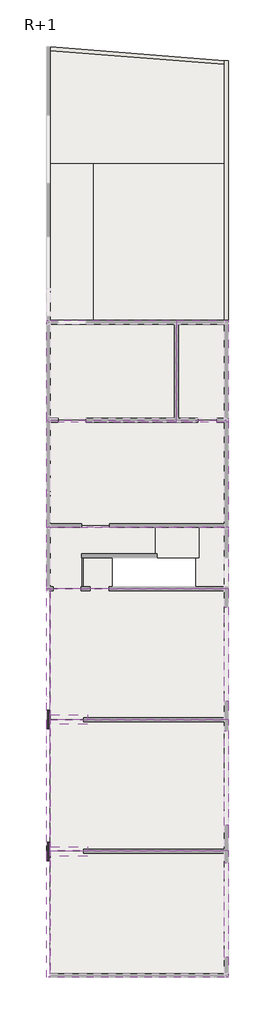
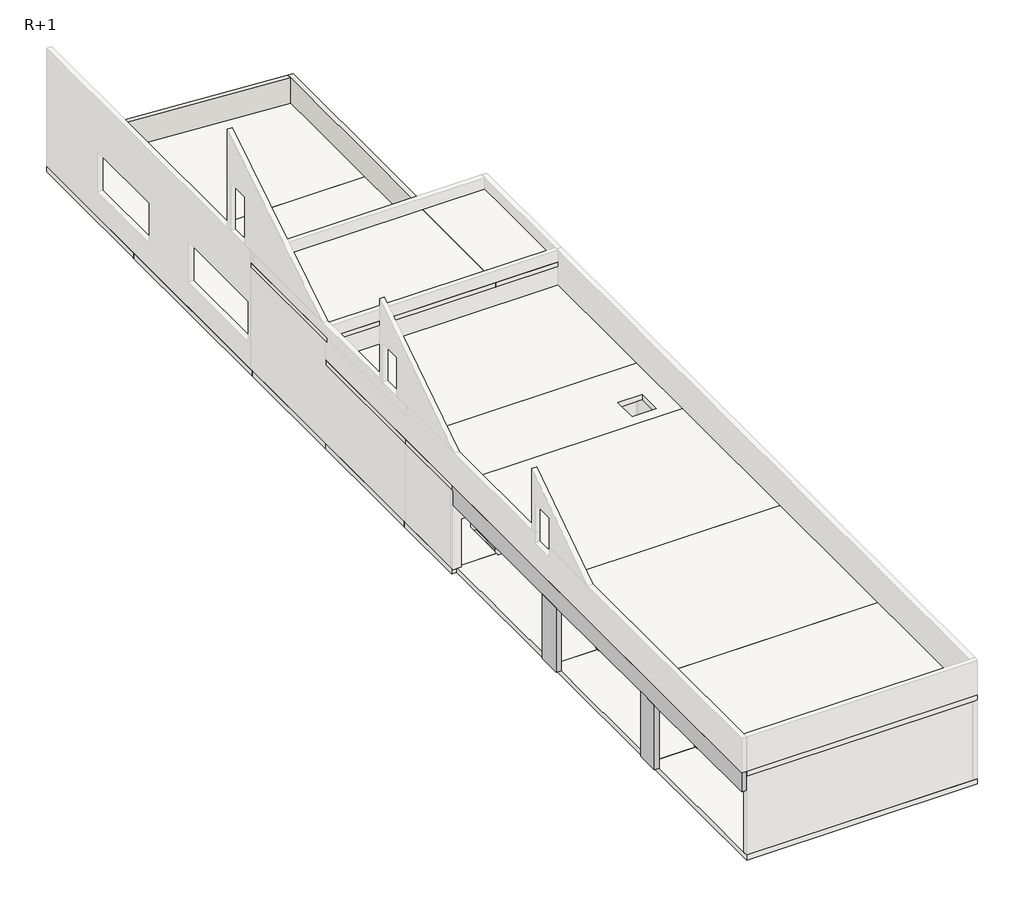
# One storey, part 2 of 2: 20 slabs, 10 beams, 2 columns, 2 walls.
"""IFC4 building model written with IfcOpenShell, lengths in millimetres."""

from ifc_helpers import new_model, si_unit, frame, origin, place, context, project, spatial, polyline, outline, extrude, faceted_brep, transform, mapped, element, save
from components import poutre_plate_20x23h_fd006301, poutre_plate_20x23h_88e0bb5e, poutre_plate_20x23h_90cabc80, poutre_plate_30x23h_b93e17b9, poutre_plate_50x22h_13fb874a

model = new_model("IFC4")

# Units and contexts
model_context = context("Model", 3, world=origin())
ifc_project = project(units=[si_unit("LENGTHUNIT", "METRE", prefix="MILLI")], contexts=[model_context])

# Site, building, storey
site = spatial("IfcSite", under=ifc_project)
building = spatial("IfcBuilding", under=site)
storey = spatial("IfcBuildingStorey", under=building, Name="R+1", Elevation=3430.0)

# Beams
placement = place(None, origin())
element("IfcBeam", 1, ObjectType="Poutre : 20x60h", at=placement, inside=storey, context=model_context, shape_type="SweptSolid", body=[
    extrude(outline(polyline([(39789.0482781, 45965.3266361), (39989.0482781, 45965.3266361), (39989.0482781, 40966.3266361), (39789.0482781, 40966.3266361), (39789.0482781, 45965.3266361)])), frame((0.0, 0.0, 6230.0), z_axis=(0.0, 0.0, 1.0), x_axis=(1.0, 0.0, 0.0)), (0.0, 0.0, 1.0), 600.0),
])
element("IfcBeam", 2, ObjectType="Poutre : 20x60h", at=placement, inside=storey, context=model_context, shape_type="SweptSolid", body=[
    extrude(outline(polyline([(39789.0482781, 39416.7655301), (39989.0482781, 39416.7655301), (39989.0482781, 34416.7655301), (39789.0482781, 34416.7655301), (39789.0482781, 39416.7655301)])), frame((0.0, 0.0, 6230.0), z_axis=(0.0, 0.0, 1.0), x_axis=(1.0, 0.0, 0.0)), (0.0, 0.0, 1.0), 600.0),
])
element("IfcBeam", 3, ObjectType="Poutre : 20x60h", at=placement, inside=storey, context=model_context, shape_type="SweptSolid", body=[
    extrude(outline(polyline([(39789.0482781, 32416.8875139), (39989.0482781, 32416.8875139), (39989.0482781, 27416.8875139), (39789.0482781, 27416.8875139), (39789.0482781, 32416.8875139)])), frame((0.0, 0.0, 6230.0), z_axis=(0.0, 0.0, 1.0), x_axis=(1.0, 0.0, 0.0)), (0.0, 0.0, 1.0), 600.0),
])
element("IfcBeam", 4, ObjectType="Poutre : 20x82h", at=placement, inside=storey, context=model_context, shape_type="Brep", body=[
    faceted_brep([(30339.0482779, 26349.8020807, 6230.0), (30339.0482779, 26349.8020807, 7050.0), (30339.0482779, 46929.8020813, 7050.0), (30339.0482779, 46929.8020813, 6830.0), (30339.0482779, 46829.8020813, 6830.0), (30339.0482779, 46829.8020813, 6230.0), (30339.0482779, 40492.3020813, 6230.0), (30339.0482779, 39507.3020813, 6230.0), (30339.0482779, 33522.3020807, 6230.0), (30339.0482779, 32537.3020807, 6230.0), (30539.0482779, 26349.8020807, 6230.0), (30539.0482779, 46829.8020813, 6230.0), (30539.0482779, 40492.3020813, 6230.0), (30539.0482779, 39507.3020813, 6230.0), (30539.0482779, 33522.3020807, 6230.0), (30539.0482779, 32537.3020807, 6230.0), (30539.0482779, 26349.8020807, 7050.0), (30539.0482779, 26349.8020807, 6830.0), (30539.0482779, 46829.8020813, 6830.0), (30539.0482779, 46929.8020813, 6830.0), (30539.0482779, 46929.8020813, 7050.0), (30539.0482779, 39999.8020813, 7050.0), (30539.0482779, 33069.8020807, 7050.0)], [[[0, 1, 2, 3, 4, 5, 6, 7, 8, 9]], [[10, 0, 9, 8, 7, 6, 5, 11, 12, 13, 14, 15]], [[16, 17, 10, 15, 14, 13, 12, 11, 18, 19, 20, 21, 22]], [[1, 16, 22, 21, 20, 2]], [[1, 0, 10, 17, 16]], [[5, 4, 18, 11]], [[3, 2, 20, 19]], [[18, 4, 3, 19]]]),
])
poutre_plate_20x23h_shape = poutre_plate_20x23h_fd006301(model_context)
element("IfcBeam", 5, ObjectType="Poutre Plate : 20x23h", at=placement, inside=storey, context=model_context, shape_type="MappedRepresentation", body=[
    mapped(poutre_plate_20x23h_shape, transform((32299.048278, 47804.8020814, 3315.0), x_axis=(0.0, 1.0, 0.0), y_axis=(-1.0, 0.0, 0.0), z_axis=(0.0, 0.0, 1.0))),
])
poutre_plate_20x23h_2_shape = poutre_plate_20x23h_88e0bb5e(model_context)
element("IfcBeam", 6, ObjectType="Poutre Plate : 20x23h", at=placement, inside=storey, context=model_context, shape_type="MappedRepresentation", body=[
    mapped(poutre_plate_20x23h_2_shape, transform((31319.048278, 50279.8020815, 3315.0), x_axis=(-1.0, 0.0, 0.0), y_axis=(0.0, -1.0, 0.0), z_axis=(0.0, 0.0, 1.0))),
])
poutre_plate_20x23h_3_shape = poutre_plate_20x23h_90cabc80(model_context)
element("IfcBeam", 7, ObjectType="Poutre Plate : 20x23h", at=placement, inside=storey, context=model_context, shape_type="MappedRepresentation", body=[
    mapped(poutre_plate_20x23h_3_shape, transform((36089.0482771, 49479.8020815, 3315.0), x_axis=(0.0, 1.0, 0.0), y_axis=(-1.0, 0.0, 0.0), z_axis=(0.0, 0.0, 1.0))),
])
poutre_plate_30x23h_shape = poutre_plate_30x23h_b93e17b9(model_context)
element("IfcBeam", 8, ObjectType="Poutre Plate : 30x23h", at=placement, inside=storey, context=model_context, shape_type="MappedRepresentation", body=[
    mapped(poutre_plate_30x23h_shape, transform((38429.048278, 48604.8020814, 3315.0), x_axis=(0.0, 1.0, 0.0), y_axis=(-1.0, 0.0, 0.0), z_axis=(0.0, 0.0, 1.0))),
])
poutre_plate_50x22h_shape = poutre_plate_50x22h_13fb874a(model_context)
element("IfcBeam", 9, ObjectType="Poutre Plate : 50x22h", at=placement, inside=storey, context=model_context, shape_type="MappedRepresentation", body=[
    mapped(poutre_plate_50x22h_shape, transform((31519.198278, 39999.8020813, 6750.0), x_axis=(1.0, 0.0, 0.0), y_axis=(0.0, 1.0, 0.0), z_axis=(0.0, 0.0, 1.0))),
])
element("IfcBeam", 10, ObjectType="Poutre Plate : 50x22h", at=placement, inside=storey, context=model_context, shape_type="MappedRepresentation", body=[
    mapped(poutre_plate_50x22h_shape, transform((31519.198278, 33029.8020807, 6750.0), x_axis=(1.0, 0.0, 0.0), y_axis=(0.0, 1.0, 0.0), z_axis=(0.0, 0.0, 1.0))),
])

# Columns
element("IfcColumn", 11, ObjectType="Poteau rectangulaire : 20 x 98.5cm", at=placement, inside=storey, context=model_context, shape_type="SweptSolid", body=[
    extrude(outline(polyline([(30539.0482779, 40492.3020813), (30539.0482779, 39507.3020813), (30339.0482779, 39507.3020813), (30339.0482779, 40492.3020813), (30539.0482779, 40492.3020813)])), frame((0.0, 0.0, 3430.0), z_axis=(0.0, 0.0, 1.0), x_axis=(1.0, 0.0, 0.0)), (0.0, 0.0, 1.0), 2800.0),
])
element("IfcColumn", 12, ObjectType="Poteau rectangulaire : 20 x 98.5cm", at=placement, inside=storey, context=model_context, shape_type="SweptSolid", body=[
    extrude(outline(polyline([(30539.0482779, 33522.3020807), (30539.0482779, 32537.3020807), (30339.0482779, 32537.3020807), (30339.0482779, 33522.3020807), (30539.0482779, 33522.3020807)])), frame((0.0, 0.0, 3430.0), z_axis=(0.0, 0.0, 1.0), x_axis=(1.0, 0.0, 0.0)), (0.0, 0.0, 1.0), 2800.0),
])

# Slabs
element("IfcSlab", 13, ObjectType="Plancher dalle pleine - Ep 20 cm", at=placement, inside=storey, context=model_context, shape_type="Brep", body=[
    faceted_brep([(37239.0482776, 61149.8020814, 7850.0), (37239.0482776, 55749.8020814, 7850.0), (30539.0482779, 55749.8020814, 7850.0), (30339.0482779, 55749.8020814, 7850.0), (30339.0482779, 55849.8020814, 7850.0), (30339.0482779, 61149.8020814, 7850.0), (30539.0482779, 61149.8020814, 7850.0), (37239.0482776, 61149.8020814, 8050.0), (30339.0482779, 61149.8020814, 8050.0), (30339.0482779, 60949.8020814, 8050.0), (30339.0482779, 55749.8020814, 8050.0), (30539.0482779, 55749.8020814, 8050.0), (37239.0482776, 55749.8020814, 8050.0)], [[[0, 1, 2, 3, 4, 5, 6]], [[7, 8, 9, 10, 11, 12]], [[1, 0, 7, 12]], [[3, 2, 1, 12, 11, 10]], [[5, 4, 3, 10, 9, 8]], [[0, 6, 5, 8, 7]]]),
])
element("IfcSlab", 14, ObjectType="Plancher dalle pleine - Ep 20 cm", at=placement, inside=storey, context=model_context, shape_type="Brep", body=[
    faceted_brep([(39989.0482781, 61149.8020814, 7850.0), (39989.0482781, 60949.8020814, 7850.0), (39989.0482781, 55949.8020814, 7850.0), (39989.0482781, 55749.8020814, 7850.0), (39789.0482781, 55749.8020814, 7850.0), (37239.0482776, 55749.8020814, 7850.0), (37239.0482776, 61149.8020814, 7850.0), (39989.0482781, 61149.8020814, 8050.0), (39789.0482781, 61149.8020814, 8050.0), (37239.0482776, 61149.8020814, 8050.0), (37239.0482776, 55749.8020814, 8050.0), (39789.0482781, 55749.8020814, 8050.0), (39989.0482781, 55749.8020814, 8050.0), (39989.0482781, 55849.8020814, 8050.0)], [[[0, 1, 2, 3, 4, 5, 6]], [[7, 8, 9, 10, 11, 12, 13]], [[3, 2, 1, 0, 7, 13, 12]], [[5, 4, 3, 12, 11, 10]], [[6, 5, 10, 9]], [[0, 6, 9, 8, 7]]]),
])
element("IfcSlab", 15, ObjectType="Plancher dalle pleine - Ep 22 cm", at=placement, inside=storey, context=model_context, shape_type="Brep", body=[
    faceted_brep([(30539.0482779, 39999.8020813, 6830.0), (39989.0482781, 39999.8020813, 6830.0), (39989.0482781, 39416.7655301, 6830.0), (39989.0482781, 34416.7655301, 6830.0), (39989.0482781, 33069.8020807, 6830.0), (30539.0482779, 33069.8020807, 6830.0), (39989.0482781, 39999.8020813, 7050.0), (30539.0482779, 39999.8020813, 7050.0), (30539.0482779, 33069.8020807, 7050.0), (39989.0482781, 33069.8020807, 7050.0)], [[[0, 1, 2, 3, 4, 5]], [[6, 7, 8, 9]], [[1, 6, 9, 4, 3, 2]], [[7, 0, 5, 8]], [[1, 0, 7, 6]], [[5, 4, 9, 8]]]),
])
element("IfcSlab", 16, ObjectType="Plancher dalle pleine - Ep 22 cm", at=placement, inside=storey, context=model_context, shape_type="Brep", body=[
    faceted_brep([(39989.0482781, 33069.8020807, 6830.0), (39989.0482781, 32416.8875139, 6830.0), (39989.0482781, 27416.8875139, 6830.0), (39989.0482781, 26349.8020807, 6830.0), (39789.0482781, 26349.8020807, 6830.0), (30539.0482779, 26349.8020807, 6830.0), (30539.0482779, 26549.8020807, 6830.0), (30539.0482779, 33069.8020807, 6830.0), (39989.0482781, 33069.8020807, 7050.0), (30539.0482779, 33069.8020807, 7050.0), (30539.0482779, 26549.8020807, 7050.0), (30539.0482779, 26349.8020807, 7050.0), (39989.0482781, 26349.8020807, 7050.0), (39989.0482781, 26549.8020807, 7050.0)], [[[0, 1, 2, 3, 4, 5, 6, 7]], [[8, 9, 10, 11, 12, 13]], [[3, 2, 1, 0, 8, 13, 12]], [[5, 4, 3, 12, 11]], [[7, 6, 5, 11, 10, 9]], [[0, 7, 9, 8]]]),
])
element("IfcSlab", 17, ObjectType="Plancher dalle pleine - Ep 22 cm", at=placement, inside=storey, context=model_context, shape_type="Brep", body=[
    faceted_brep([(39989.0482781, 55849.8020814, 6830.0), (39989.0482781, 50179.8020815, 6830.0), (39789.0482781, 50179.8020815, 6830.0), (30539.0482779, 50179.8020815, 6830.0), (30339.0482779, 50179.8020815, 6830.0), (30339.0482779, 55849.8020814, 6830.0), (30539.0482779, 55849.8020814, 6830.0), (39789.0482781, 55849.8020814, 6830.0), (39989.0482781, 55849.8020814, 7050.0), (39789.0482781, 55849.8020814, 7050.0), (30539.0482779, 55849.8020814, 7050.0), (30339.0482779, 55849.8020814, 7050.0), (30339.0482779, 50179.8020815, 7050.0), (39989.0482781, 50179.8020815, 7050.0)], [[[0, 1, 2, 3, 4, 5, 6, 7]], [[8, 9, 10, 11, 12, 13]], [[1, 0, 8, 13]], [[4, 3, 2, 1, 13, 12]], [[5, 4, 12, 11]], [[0, 7, 6, 5, 11, 10, 9, 8]]]),
])
element("IfcSlab", 18, ObjectType="Plancher dalle pleine - Ep 22 cm", at=placement, inside=storey, context=model_context, shape_type="Brep", body=[
    faceted_brep([(39989.0482781, 50179.8020815, 6830.0), (39989.0482781, 50079.8020815, 6830.0), (39989.0482781, 46929.8020813, 6830.0), (30539.0482779, 46929.8020813, 6830.0), (30339.0482779, 46929.8020813, 6830.0), (30339.0482779, 47029.8020813, 6830.0), (30339.0482779, 50179.8020815, 6830.0), (30539.0482779, 50179.8020815, 6830.0), (38989.0482781, 48379.8020815, 6830.0), (37989.0482781, 48379.8020815, 6830.0), (37989.0482781, 47379.8020815, 6830.0), (38989.0482781, 47379.8020815, 6830.0), (39989.0482781, 50179.8020815, 7050.0), (30339.0482779, 50179.8020815, 7050.0), (30339.0482779, 46929.8020813, 7050.0), (30539.0482779, 46929.8020813, 7050.0), (39989.0482781, 46929.8020813, 7050.0), (37989.0482781, 48379.8020815, 7050.0), (38989.0482781, 48379.8020815, 7050.0), (38989.0482781, 47379.8020815, 7050.0), (37989.0482781, 47379.8020815, 7050.0)], [[[0, 1, 2, 3, 4, 5, 6, 7], [8, 9, 10, 11]], [[12, 13, 14, 15, 16], [17, 18, 19, 20]], [[2, 1, 0, 12, 16]], [[4, 3, 2, 16, 15, 14]], [[6, 5, 4, 14, 13]], [[0, 7, 6, 13, 12]], [[8, 18, 17, 9]], [[9, 17, 20, 10]], [[10, 20, 19, 11]], [[18, 8, 11, 19]]]),
])
element("IfcSlab", 19, ObjectType="Plancher dalle pleine - Ep 22 cm", at=placement, inside=storey, context=model_context, shape_type="Brep", body=[
    faceted_brep([(39989.0482781, 46929.8020813, 6830.0), (39989.0482781, 45965.3266361, 6830.0), (39989.0482781, 40966.3266361, 6830.0), (39989.0482781, 39999.8020813, 6830.0), (30539.0482779, 39999.8020813, 6830.0), (30539.0482779, 46829.8020813, 6830.0), (30539.0482779, 46929.8020813, 6830.0), (39989.0482781, 46929.8020813, 7050.0), (30539.0482779, 46929.8020813, 7050.0), (30539.0482779, 39999.8020813, 7050.0), (39989.0482781, 39999.8020813, 7050.0)], [[[0, 1, 2, 3, 4, 5, 6]], [[7, 8, 9, 10]], [[3, 2, 1, 0, 7, 10]], [[4, 3, 10, 9]], [[6, 5, 4, 9, 8]], [[0, 6, 8, 7]]]),
])
element("IfcSlab", 20, ObjectType="Plancher dalle pleine - Ep 23 cm", at=placement, inside=storey, context=model_context, shape_type="Brep", body=[
    faceted_brep([(30339.0482779, 69449.8020814, 3200.0), (30339.0482779, 69550.0032938, 3200.0), (30339.0482779, 73750.0032938, 3200.0), (30339.0482779, 75645.8255641, 3200.0), (30539.0482779, 75630.0113589, 3200.0), (34770.7691545, 75295.4048471, 3200.0), (38459.2564911, 75003.7523687, 3200.0), (39789.0482781, 74898.6043676, 3200.0), (39989.0482781, 74882.7901624, 3200.0), (39989.0482781, 74549.5520814, 3200.0), (39989.0482781, 70574.5520814, 3200.0), (39989.0482781, 69449.8020814, 3200.0), (32799.0482767, 69449.8020814, 3200.0), (30339.0482779, 69449.8020814, 3430.0), (32799.0482767, 69449.8020814, 3430.0), (39989.0482781, 69449.8020814, 3430.0), (39989.0482781, 74882.7901624, 3430.0), (39789.0482781, 74898.6043676, 3430.0), (30539.0482779, 75630.0113589, 3430.0), (30339.0482779, 75645.8255641, 3430.0)], [[[0, 1, 2, 3, 4, 5, 6, 7, 8, 9, 10, 11, 12]], [[13, 14, 15, 16, 17, 18, 19]], [[3, 2, 1, 0, 13, 19]], [[8, 7, 6, 5, 4, 3, 19, 18, 17, 16]], [[11, 10, 9, 8, 16, 15]], [[0, 12, 11, 15, 14, 13]]]),
])
element("IfcSlab", 21, ObjectType="Plancher dalle pleine - Ep 23 cm", at=placement, inside=storey, context=model_context, shape_type="Brep", body=[
    faceted_brep([(37139.0482776, 55849.8020814, 3200.0), (30339.0482779, 55849.8020814, 3200.0), (30339.0482779, 60949.8020814, 3200.0), (30339.0482779, 61049.8020814, 3200.0), (32799.0482767, 61049.8020814, 3200.0), (37139.0482776, 61049.8020814, 3200.0), (37239.0482776, 61049.8020814, 3200.0), (37239.0482776, 60949.8020814, 3200.0), (37139.0482776, 60949.8020814, 3200.0), (37139.0482776, 55949.8020814, 3200.0), (37239.0482776, 55949.8020814, 3200.0), (37239.0482776, 55849.8020814, 3200.0), (37139.0482776, 55849.8020814, 3430.0), (37239.0482776, 55849.8020814, 3430.0), (37239.0482776, 55949.8020814, 3430.0), (37139.0482776, 55949.8020814, 3430.0), (37139.0482776, 60949.8020814, 3430.0), (37239.0482776, 60949.8020814, 3430.0), (37239.0482776, 61049.8020814, 3430.0), (37139.0482776, 61049.8020814, 3430.0), (32799.0482767, 61049.8020814, 3430.0), (30339.0482779, 61049.8020814, 3430.0), (30339.0482779, 55849.8020814, 3430.0)], [[[0, 1, 2, 3, 4, 5, 6, 7, 8, 9, 10, 11]], [[12, 13, 14, 15, 16, 17, 18, 19, 20, 21, 22]], [[1, 0, 12, 22]], [[3, 2, 1, 22, 21]], [[5, 4, 3, 21, 20, 19]], [[9, 8, 16, 15]], [[6, 5, 19, 18]], [[7, 6, 18, 17]], [[8, 7, 17, 16]], [[10, 9, 15, 14]], [[11, 10, 14, 13]], [[0, 11, 13, 12]]]),
])
element("IfcSlab", 22, ObjectType="Plancher dalle pleine - Ep 23 cm", at=placement, inside=storey, context=model_context, shape_type="Brep", body=[
    faceted_brep([(30339.0482779, 69449.8020814, 3200.0), (32799.0482767, 69449.8020814, 3200.0), (32799.0482767, 61049.8020814, 3200.0), (30339.0482779, 61049.8020814, 3200.0), (30339.0482779, 69449.8020814, 3430.0), (30339.0482779, 61149.8020814, 3430.0), (30339.0482779, 61049.8020814, 3430.0), (32799.0482767, 61049.8020814, 3430.0), (32799.0482767, 69449.8020814, 3430.0)], [[[0, 1, 2, 3]], [[4, 5, 6, 7, 8]], [[1, 0, 4, 8]], [[2, 1, 8, 7]], [[3, 2, 7, 6]], [[0, 3, 6, 5, 4]]]),
])
element("IfcSlab", 23, ObjectType="Plancher dalle pleine - Ep 23 cm", at=placement, inside=storey, context=model_context, shape_type="Brep", body=[
    faceted_brep([(39989.0482781, 69449.8020814, 3200.0), (39989.0482781, 68524.8020814, 3200.0), (39989.0482781, 61574.8020814, 3200.0), (39989.0482781, 61049.8020814, 3200.0), (37239.0482776, 61049.8020814, 3200.0), (32799.0482767, 61049.8020814, 3200.0), (32799.0482767, 69449.8020814, 3200.0), (39989.0482781, 61049.8020814, 3430.0), (39989.0482781, 61149.8020814, 3430.0), (39989.0482781, 69449.8020814, 3430.0), (32799.0482767, 69449.8020814, 3430.0), (32799.0482767, 61049.8020814, 3430.0), (37239.0482776, 61049.8020814, 3430.0)], [[[0, 1, 2, 3, 4, 5, 6]], [[7, 8, 9, 10, 11, 12]], [[3, 2, 1, 0, 9, 8, 7]], [[3, 7, 12, 11, 5, 4]], [[9, 0, 6, 10]], [[6, 5, 11, 10]]]),
])
element("IfcSlab", 24, ObjectType="Plancher dalle pleine - Ep 23 cm", at=placement, inside=storey, context=model_context, shape_type="Brep", body=[
    faceted_brep([(39989.0482781, 46929.8020813, 3200.0), (39989.0482781, 39999.8020813, 3200.0), (30539.0482779, 39999.8020813, 3200.0), (30539.0482779, 40099.8020813, 3200.0), (30539.0482779, 46829.8020813, 3200.0), (30539.0482779, 46929.8020813, 3200.0), (32299.048278, 46929.8020813, 3200.0), (32369.048278, 46929.8020813, 3200.0), (33809.048278, 46929.8020813, 3200.0), (33809.048278, 47029.8020813, 3200.0), (38279.048278, 47029.8020813, 3200.0), (38279.048278, 46929.8020813, 3200.0), (39989.0482781, 39999.8020813, 3430.0), (39989.0482781, 46929.8020813, 3430.0), (38279.048278, 46929.8020813, 3430.0), (38279.048278, 47029.8020813, 3430.0), (33809.048278, 47029.8020813, 3430.0), (33809.048278, 46929.8020813, 3430.0), (32369.048278, 46929.8020813, 3430.0), (32299.048278, 46929.8020813, 3430.0), (30539.0482779, 46929.8020813, 3430.0), (30539.0482779, 39999.8020813, 3430.0)], [[[0, 1, 2, 3, 4, 5, 6, 7, 8, 9, 10, 11]], [[12, 13, 14, 15, 16, 17, 18, 19, 20, 21]], [[1, 0, 13, 12]], [[2, 1, 12, 21]], [[5, 4, 3, 2, 21, 20]], [[5, 20, 19, 18, 17, 8, 7, 6]], [[9, 8, 17, 16]], [[10, 9, 16, 15]], [[11, 10, 15, 14]], [[0, 11, 14, 13]]]),
])
element("IfcSlab", 25, ObjectType="Plancher dalle pleine - Ep 23 cm", at=placement, inside=storey, context=model_context, shape_type="Brep", body=[
    faceted_brep([(32199.048278, 48579.8020815, 3200.0), (32199.048278, 47029.8020813, 3200.0), (32299.048278, 47029.8020813, 3200.0), (32299.048278, 46929.8020813, 3200.0), (32199.048278, 46929.8020813, 3200.0), (30339.0482779, 46929.8020813, 3200.0), (30339.0482779, 50279.8020815, 3200.0), (36089.0482771, 50279.8020815, 3200.0), (36089.0482771, 50279.3020815, 3200.0), (36089.0482771, 48579.8020815, 3200.0), (33809.048278, 48579.8020815, 3200.0), (32299.048278, 48579.8020815, 3200.0), (32199.048278, 48579.8020815, 3430.0), (32299.048278, 48579.8020815, 3430.0), (33809.048278, 48579.8020815, 3430.0), (36089.0482771, 48579.8020815, 3430.0), (36089.0482771, 50279.3020815, 3430.0), (36089.0482771, 50279.8020815, 3430.0), (30339.0482779, 50279.8020815, 3430.0), (30339.0482779, 50179.8020815, 3430.0), (30339.0482779, 47029.8020813, 3430.0), (30339.0482779, 46929.8020813, 3430.0), (32199.048278, 46929.8020813, 3430.0), (32299.048278, 46929.8020813, 3430.0), (32299.048278, 47029.8020813, 3430.0), (32199.048278, 47029.8020813, 3430.0)], [[[0, 1, 2, 3, 4, 5, 6, 7, 8, 9, 10, 11]], [[12, 13, 14, 15, 16, 17, 18, 19, 20, 21, 22, 23, 24, 25]], [[1, 0, 12, 25]], [[5, 4, 22, 21]], [[6, 5, 21, 20, 19, 18]], [[7, 6, 18, 17]], [[9, 8, 7, 17, 16, 15]], [[0, 11, 10, 9, 15, 14, 13, 12]], [[2, 1, 25, 24]], [[3, 2, 24, 23]], [[4, 3, 23, 22]]]),
])
element("IfcSlab", 26, ObjectType="Plancher dalle pleine - Ep 23 cm", at=placement, inside=storey, context=model_context, shape_type="Brep", body=[
    faceted_brep([(32299.048278, 48579.8020815, 3200.0), (33809.048278, 48579.8020815, 3200.0), (33809.048278, 47029.8020813, 3200.0), (33809.048278, 46929.8020813, 3200.0), (32369.048278, 46929.8020813, 3200.0), (32299.048278, 46929.8020813, 3200.0), (32299.048278, 47029.8020813, 3200.0), (33809.048278, 48579.8020815, 3430.0), (32299.048278, 48579.8020815, 3430.0), (32299.048278, 47029.8020813, 3430.0), (32299.048278, 46929.8020813, 3430.0), (32369.048278, 46929.8020813, 3430.0), (33809.048278, 46929.8020813, 3430.0), (33809.048278, 47029.8020813, 3430.0)], [[[0, 1, 2, 3, 4, 5, 6]], [[7, 8, 9, 10, 11, 12, 13]], [[1, 0, 8, 7]], [[3, 2, 1, 7, 13, 12]], [[4, 3, 12, 11]], [[5, 4, 11, 10]], [[5, 10, 9, 8, 0, 6]]]),
])
element("IfcSlab", 27, ObjectType="Plancher dalle pleine - Ep 23 cm", at=placement, inside=storey, context=model_context, shape_type="Brep", body=[
    faceted_brep([(30339.0482779, 55849.8020814, 3200.0), (37239.0482776, 55849.8020814, 3200.0), (39989.0482781, 55849.8020814, 3200.0), (39989.0482781, 50279.3020815, 3200.0), (38429.048278, 50279.3020815, 3200.0), (36089.0482771, 50279.3020815, 3200.0), (36089.0482771, 50279.8020815, 3200.0), (30339.0482779, 50279.8020815, 3200.0), (30339.0482779, 50319.8020815, 3200.0), (30339.0482779, 51902.3020813, 3200.0), (30339.0482779, 52102.3020813, 3200.0), (39989.0482781, 55849.8020814, 3430.0), (37239.0482776, 55849.8020814, 3430.0), (30339.0482779, 55849.8020814, 3430.0), (30339.0482779, 50279.8020815, 3430.0), (36089.0482771, 50279.8020815, 3430.0), (36089.0482771, 50279.3020815, 3430.0), (38429.048278, 50279.3020815, 3430.0), (39989.0482781, 50279.3020815, 3430.0)], [[[0, 1, 2, 3, 4, 5, 6, 7, 8, 9, 10]], [[11, 12, 13, 14, 15, 16, 17, 18]], [[13, 0, 10, 9, 8, 7, 14]], [[2, 1, 0, 13, 12, 11]], [[3, 2, 11, 18]], [[3, 18, 17, 16, 5, 4]], [[6, 15, 14, 7]], [[15, 6, 5, 16]]]),
])
element("IfcSlab", 28, ObjectType="Plancher dalle pleine - Ep 23 cm", at=placement, inside=storey, context=model_context, shape_type="Brep", body=[
    faceted_brep([(36089.0482771, 50279.3020815, 3200.0), (38429.048278, 50279.3020815, 3200.0), (38429.048278, 48579.8020815, 3200.0), (38279.048278, 48579.8020815, 3200.0), (36089.0482771, 48579.8020815, 3200.0), (38429.048278, 50279.3020815, 3430.0), (36089.0482771, 50279.3020815, 3430.0), (36089.0482771, 48579.8020815, 3430.0), (38279.048278, 48579.8020815, 3430.0), (38429.048278, 48579.8020815, 3430.0)], [[[0, 1, 2, 3, 4]], [[5, 6, 7, 8, 9]], [[2, 9, 8, 7, 4, 3]], [[9, 2, 1, 5]], [[1, 0, 6, 5]], [[4, 7, 6, 0]]]),
])
element("IfcSlab", 29, ObjectType="Plancher dalle pleine - Ep 23 cm", at=placement, inside=storey, context=model_context, shape_type="Brep", body=[
    faceted_brep([(39989.0482781, 39999.8020813, 3200.0), (39989.0482781, 37391.301977, 3200.0), (39989.0482781, 33440.301977, 3200.0), (39989.0482781, 33029.8020807, 3200.0), (30539.0482779, 33029.8020807, 3200.0), (30539.0482779, 33129.8020807, 3200.0), (30539.0482779, 39899.8020813, 3200.0), (30539.0482779, 39999.8020813, 3200.0), (39989.0482781, 39999.8020813, 3430.0), (30539.0482779, 39999.8020813, 3430.0), (30539.0482779, 33029.8020807, 3430.0), (39989.0482781, 33029.8020807, 3430.0)], [[[0, 1, 2, 3, 4, 5, 6, 7]], [[8, 9, 10, 11]], [[3, 2, 1, 0, 8, 11]], [[4, 3, 11, 10]], [[7, 6, 5, 4, 10, 9]], [[0, 7, 9, 8]]]),
])
element("IfcSlab", 30, ObjectType="Plancher dalle pleine - Ep 23 cm", at=placement, inside=storey, context=model_context, shape_type="Brep", body=[
    faceted_brep([(39989.0482781, 33029.8020807, 3200.0), (39989.0482781, 32391.8519337, 3200.0), (39989.0482781, 27412.8519337, 3200.0), (39989.0482781, 26349.8020807, 3200.0), (39789.0482781, 26349.8020807, 3200.0), (30539.0482779, 26349.8020807, 3200.0), (30539.0482779, 33029.8020807, 3200.0), (39989.0482781, 33029.8020807, 3430.0), (30539.0482779, 33029.8020807, 3430.0), (30539.0482779, 26549.8020807, 3430.0), (30539.0482779, 26349.8020807, 3430.0), (39789.0482781, 26349.8020807, 3430.0), (39989.0482781, 26349.8020807, 3430.0)], [[[0, 1, 2, 3, 4, 5, 6]], [[7, 8, 9, 10, 11, 12]], [[3, 2, 1, 0, 7, 12]], [[5, 4, 3, 12, 11, 10]], [[6, 5, 10, 9, 8]], [[0, 6, 8, 7]]]),
])
element("IfcSlab", 31, ObjectType="Plancher dalle pleine - Ep 23 cm", at=placement, inside=storey, context=model_context, shape_type="Brep", body=[
    faceted_brep([(39989.0482781, 46929.8020813, 3200.0), (38279.048278, 46929.8020813, 3200.0), (38279.048278, 47029.8020813, 3200.0), (38279.048278, 48579.8020815, 3200.0), (38429.048278, 48579.8020815, 3200.0), (38429.048278, 50279.3020815, 3200.0), (39989.0482781, 50279.3020815, 3200.0), (39989.0482781, 46929.8020813, 3430.0), (39989.0482781, 50079.8020815, 3430.0), (39989.0482781, 50279.3020815, 3430.0), (38429.048278, 50279.3020815, 3430.0), (38429.048278, 48579.8020815, 3430.0), (38279.048278, 48579.8020815, 3430.0), (38279.048278, 47029.8020813, 3430.0), (38279.048278, 46929.8020813, 3430.0)], [[[0, 1, 2, 3, 4, 5, 6]], [[7, 8, 9, 10, 11, 12, 13, 14]], [[6, 5, 10, 9]], [[0, 6, 9, 8, 7]], [[1, 0, 7, 14]], [[3, 2, 1, 14, 13, 12]], [[4, 3, 12, 11]], [[5, 4, 11, 10]]]),
])
element("IfcSlab", 32, ObjectType="Plancher dalle pleine - Ep 23 cm", at=placement, inside=storey, context=model_context, shape_type="Brep", body=[
    faceted_brep([(37239.0482776, 55849.8020814, 3200.0), (37239.0482776, 55949.8020814, 3200.0), (37339.0482776, 55949.8020814, 3200.0), (37339.0482776, 60949.8020814, 3200.0), (37239.0482776, 60949.8020814, 3200.0), (37239.0482776, 61049.8020814, 3200.0), (39989.0482781, 61049.8020814, 3200.0), (39989.0482781, 60524.8020814, 3200.0), (39989.0482781, 56524.8020814, 3200.0), (39989.0482781, 55849.8020814, 3200.0), (37239.0482776, 55849.8020814, 3430.0), (39989.0482781, 55849.8020814, 3430.0), (39989.0482781, 60949.8020814, 3430.0), (39989.0482781, 61049.8020814, 3430.0), (37239.0482776, 61049.8020814, 3430.0), (37239.0482776, 60949.8020814, 3430.0), (37339.0482776, 60949.8020814, 3430.0), (37339.0482776, 55949.8020814, 3430.0), (37239.0482776, 55949.8020814, 3430.0)], [[[0, 1, 2, 3, 4, 5, 6, 7, 8, 9]], [[10, 11, 12, 13, 14, 15, 16, 17, 18]], [[1, 0, 10, 18]], [[2, 1, 18, 17]], [[3, 2, 17, 16]], [[4, 3, 16, 15]], [[5, 4, 15, 14]], [[6, 5, 14, 13]], [[9, 8, 7, 6, 13, 12, 11]], [[0, 9, 11, 10]]]),
])

# Walls
element("IfcWall", 33, ObjectType="Acrotère 20 cm - Béton Armé C25/30", at=placement, inside=storey, context=model_context, shape_type="Brep", body=[
    faceted_brep([(39989.0482781, 61149.8020814, 3430.0), (39989.0482781, 69449.8020814, 3430.0), (39989.0482781, 74882.7901624, 3430.0), (39989.0482781, 74882.7901624, 4530.0), (39989.0482781, 61149.8020814, 4530.0), (39789.0482781, 61149.8020814, 3430.0), (39789.0482781, 61149.8020814, 4530.0), (39789.0482781, 74697.9801191, 4530.0), (39789.0482781, 74898.6043676, 4530.0), (39789.0482781, 74898.6043676, 3430.0), (39789.0482781, 74697.9801191, 3430.0)], [[[0, 1, 2, 3, 4]], [[5, 6, 7, 8, 9, 10]], [[2, 1, 0, 5, 10, 9]], [[4, 3, 8, 7, 6]], [[3, 2, 9, 8]], [[0, 4, 6, 5]]]),
])
element("IfcWall", 34, ObjectType="Acrotère 20 cm - Béton Armé C25/30", at=placement, inside=storey, context=model_context, shape_type="SweptSolid", body=[
    extrude(outline(polyline([(30539.0482779, 75630.0113589), (39789.0482781, 74898.6043676), (39789.0482781, 74697.9801191), (30539.0482779, 75429.3871104), (30539.0482779, 75630.0113589)])), frame((0.0, 0.0, 3430.0), z_axis=(0.0, 0.0, 1.0), x_axis=(1.0, 0.0, 0.0)), (0.0, 0.0, 1.0), 1100.0),
])

save(model, "model.ifc")
